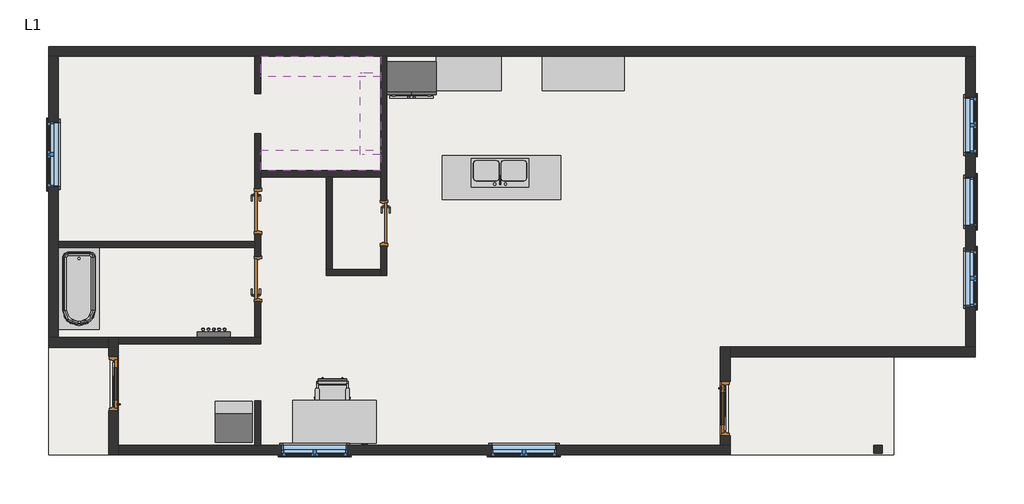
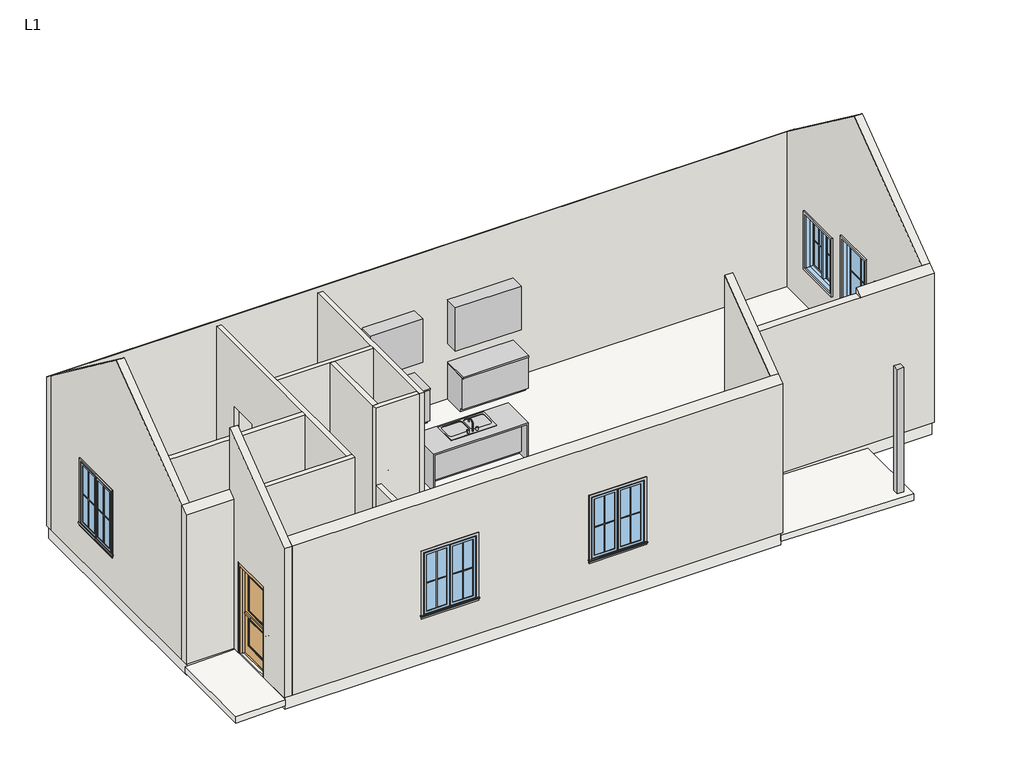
# One storey, incomplete: 28 proxies, 16 walls, 6 windows, 5 doors, 5 furniture elements, 3 slabs, 2 flow terminals, 1 column, 1 light fixture.
"""IFC4 building model written with IfcOpenShell, lengths in millimetres."""

from ifc_helpers import new_model, si_unit, frame, origin, origin_with_axes, place, context, project, spatial, polyline, outline, extrude, faceted_brep, transform, mapped, element, save
from components import proxy_7d457253, proxy_0c6ce0b5, muntin_pattern_2x2_muntin_pattern_2x2_88bf7f41, muntin_pattern_2x2_muntin_pattern_2x2_3dfd0a47, muntin_pattern_2x2_muntin_pattern_2x2_6dad3731, muntin_pattern_2x2_muntin_pattern_2x2_a30a3345, muntin_pattern_2x2_muntin_pattern_2x2_e2e8fc56, proxy_7f263747, trim_window_exterior_flat_with_sill_4930676f, trim_window_exterior_flat_with_sill_92b9b949, trim_window_exterior_flat_with_sill_0b42d71c, trim_window_interior_flat_picture_frame_dd064338, trim_window_interior_flat_picture_frame_3bb882cf, trim_window_interior_flat_picture_frame_20827519, proxy_5ec56aa7, door_071b1b46, door_1d3810e4, door_89b66799, flow_terminal_f86be223, tub_rectangular_3d_tub_rectangular_3d_49ae984a, furniture_ee69a057, furniture_a232d697, furniture_6f02d49c, chair_task_arms_chair_task_arms_fa5a08ef, furniture_072f6425, standard_89f9745c, window_5044d55b, window_87d44ff0, window_539d97a3

model = new_model("IFC4")

# Units and contexts
model_context = context("Model", 3, world=origin())
ifc_project = project(units=[si_unit("LENGTHUNIT", "METRE", prefix="MILLI")], contexts=[model_context])

# Site, building, storey
site = spatial("IfcSite", under=ifc_project)
building = spatial("IfcBuilding", under=site)
storey = spatial("IfcBuildingStorey", under=building, Name="L1", Elevation=0.0)

# Proxies
placement = place(None, origin())
proxy_shape = proxy_7d457253(model_context)
element("IfcBuildingElementProxy", 1, Name="Closet Shelf and Pole : 15\" Deep", ObjectType="Closet Shelf and Pole : 15\" Deep", at=placement, inside=storey, context=model_context, shape_type="MappedRepresentation", body=[
    mapped(proxy_shape, transform((-2923.8301933, 3639.126438, 0.0), x_axis=(1.0, 0.0, 0.0), y_axis=(0.0, 1.0, 0.0), z_axis=(0.0, 0.0, 1.0))),
])
element("IfcBuildingElementProxy", 2, Name="Closet Shelf and Pole : 15\" Deep", ObjectType="Closet Shelf and Pole : 15\" Deep", at=placement, inside=storey, context=model_context, shape_type="MappedRepresentation", body=[
    mapped(proxy_shape, transform((-688.6301933, 1505.526438, 0.0), x_axis=(-1.0, 0.0, 0.0), y_axis=(0.0, -1.0, 0.0), z_axis=(0.0, 0.0, 1.0))),
])
proxy_2_shape = proxy_0c6ce0b5(model_context)
element("IfcBuildingElementProxy", 3, Name="Closet Shelf and Pole : 15\" Deep", ObjectType="Closet Shelf and Pole : 15\" Deep", at=placement, inside=storey, context=model_context, shape_type="MappedRepresentation", body=[
    mapped(proxy_2_shape, transform((-688.6301933, 3334.326438, 0.0), x_axis=(0.0, -1.0, 0.0), y_axis=(1.0, 0.0, 0.0), z_axis=(0.0, 0.0, 1.0))),
])
muntin_pattern_2x2_muntin_pattern_2x2_shape = muntin_pattern_2x2_muntin_pattern_2x2_88bf7f41(model_context)
element("IfcBuildingElementProxy", 4, Name="Muntin Pattern_2x2 : Muntin Pattern_2x2", ObjectType="Muntin Pattern_2x2 : Muntin Pattern_2x2", at=placement, inside=storey, context=model_context, shape_type="MappedRepresentation", body=[
    mapped(muntin_pattern_2x2_muntin_pattern_2x2_shape, transform((10382.5948067, 2615.188938, 984.25), x_axis=(0.0, -1.0, 0.0), y_axis=(1.0, 0.0, 0.0), z_axis=(0.0, 0.0, 1.0))),
])
element("IfcBuildingElementProxy", 5, Name="Muntin Pattern_2x2 : Muntin Pattern_2x2", ObjectType="Muntin Pattern_2x2 : Muntin Pattern_2x2", at=placement, inside=storey, context=model_context, shape_type="MappedRepresentation", body=[
    mapped(muntin_pattern_2x2_muntin_pattern_2x2_shape, transform((10382.5948067, -242.311062, 984.25), x_axis=(0.0, -1.0, 0.0), y_axis=(1.0, 0.0, 0.0), z_axis=(0.0, 0.0, 1.0))),
])
muntin_pattern_2x2_muntin_pattern_2x2_2_shape = muntin_pattern_2x2_muntin_pattern_2x2_3dfd0a47(model_context)
element("IfcBuildingElementProxy", 6, Name="Muntin Pattern_2x2 : Muntin Pattern_2x2", ObjectType="Muntin Pattern_2x2 : Muntin Pattern_2x2", at=placement, inside=storey, context=model_context, shape_type="MappedRepresentation", body=[
    mapped(muntin_pattern_2x2_muntin_pattern_2x2_2_shape, transform((10382.5948067, 2097.663938, 984.25), x_axis=(0.0, 1.0, 0.0), y_axis=(-1.0, 0.0, 0.0), z_axis=(0.0, 0.0, 1.0))),
])
element("IfcBuildingElementProxy", 7, Name="Muntin Pattern_2x2 : Muntin Pattern_2x2", ObjectType="Muntin Pattern_2x2 : Muntin Pattern_2x2", at=placement, inside=storey, context=model_context, shape_type="MappedRepresentation", body=[
    mapped(muntin_pattern_2x2_muntin_pattern_2x2_2_shape, transform((10382.5948067, -759.836062, 984.25), x_axis=(0.0, 1.0, 0.0), y_axis=(-1.0, 0.0, 0.0), z_axis=(0.0, 0.0, 1.0))),
])
muntin_pattern_2x2_muntin_pattern_2x2_3_shape = muntin_pattern_2x2_muntin_pattern_2x2_6dad3731(model_context)
element("IfcBuildingElementProxy", 8, Name="Muntin Pattern_2x2 : Muntin Pattern_2x2", ObjectType="Muntin Pattern_2x2 : Muntin Pattern_2x2", at=placement, inside=storey, context=model_context, shape_type="MappedRepresentation", body=[
    mapped(muntin_pattern_2x2_muntin_pattern_2x2_3_shape, transform((-1617.3176933, -3787.198562, 984.25), x_axis=(-1.0, 0.0, 0.0), y_axis=(0.0, -1.0, 0.0), z_axis=(0.0, 0.0, 1.0))),
])
element("IfcBuildingElementProxy", 9, Name="Muntin Pattern_2x2 : Muntin Pattern_2x2", ObjectType="Muntin Pattern_2x2 : Muntin Pattern_2x2", at=placement, inside=storey, context=model_context, shape_type="MappedRepresentation", body=[
    mapped(muntin_pattern_2x2_muntin_pattern_2x2_3_shape, transform((2281.5823067, -3787.198562, 984.25), x_axis=(-1.0, 0.0, 0.0), y_axis=(0.0, -1.0, 0.0), z_axis=(0.0, 0.0, 1.0))),
])
element("IfcBuildingElementProxy", 10, Name="Muntin Pattern_2x2 : Muntin Pattern_2x2", ObjectType="Muntin Pattern_2x2 : Muntin Pattern_2x2", at=placement, inside=storey, context=model_context, shape_type="MappedRepresentation", body=[
    mapped(muntin_pattern_2x2_muntin_pattern_2x2_3_shape, transform((-6870.3551933, 1507.113938, 984.25), x_axis=(0.0, 1.0, 0.0), y_axis=(-1.0, 0.0, 0.0), z_axis=(0.0, 0.0, 1.0))),
])
muntin_pattern_2x2_muntin_pattern_2x2_4_shape = muntin_pattern_2x2_muntin_pattern_2x2_a30a3345(model_context)
element("IfcBuildingElementProxy", 11, Name="Muntin Pattern_2x2 : Muntin Pattern_2x2", ObjectType="Muntin Pattern_2x2 : Muntin Pattern_2x2", at=placement, inside=storey, context=model_context, shape_type="MappedRepresentation", body=[
    mapped(muntin_pattern_2x2_muntin_pattern_2x2_4_shape, transform((-2223.7426933, -3787.198562, 984.25), x_axis=(1.0, 0.0, 0.0), y_axis=(0.0, 1.0, 0.0), z_axis=(0.0, 0.0, 1.0))),
])
element("IfcBuildingElementProxy", 12, Name="Muntin Pattern_2x2 : Muntin Pattern_2x2", ObjectType="Muntin Pattern_2x2 : Muntin Pattern_2x2", at=placement, inside=storey, context=model_context, shape_type="MappedRepresentation", body=[
    mapped(muntin_pattern_2x2_muntin_pattern_2x2_4_shape, transform((1675.1573067, -3787.198562, 984.25), x_axis=(1.0, 0.0, 0.0), y_axis=(0.0, 1.0, 0.0), z_axis=(0.0, 0.0, 1.0))),
])
element("IfcBuildingElementProxy", 13, Name="Muntin Pattern_2x2 : Muntin Pattern_2x2", ObjectType="Muntin Pattern_2x2 : Muntin Pattern_2x2", at=placement, inside=storey, context=model_context, shape_type="MappedRepresentation", body=[
    mapped(muntin_pattern_2x2_muntin_pattern_2x2_4_shape, transform((-6870.3551933, 2113.538938, 984.25), x_axis=(0.0, -1.0, 0.0), y_axis=(1.0, 0.0, 0.0), z_axis=(0.0, 0.0, 1.0))),
])
muntin_pattern_2x2_muntin_pattern_2x2_5_shape = muntin_pattern_2x2_muntin_pattern_2x2_e2e8fc56(model_context)
element("IfcBuildingElementProxy", 14, Name="Muntin Pattern_2x2 : Muntin Pattern_2x2", ObjectType="Muntin Pattern_2x2 : Muntin Pattern_2x2", at=placement, inside=storey, context=model_context, shape_type="MappedRepresentation", body=[
    mapped(muntin_pattern_2x2_muntin_pattern_2x2_5_shape, transform((10382.5948067, 927.676438, 952.5), x_axis=(0.0, 1.0, 0.0), y_axis=(-1.0, 0.0, 0.0), z_axis=(0.0, 0.0, 1.0))),
])
proxy_3_shape = proxy_7f263747(model_context)
element("IfcBuildingElementProxy", 15, Name="Refrigerator-French_Door : 36\"", ObjectType="Refrigerator-French_Door : 36\"", at=placement, inside=storey, context=model_context, shape_type="MappedRepresentation", body=[
    mapped(proxy_3_shape, transform((-117.1301933, 3639.126438, 0.0), x_axis=(1.0, 0.0, 0.0), y_axis=(0.0, 1.0, 0.0), z_axis=(0.0, 0.0, 1.0))),
])
trim_window_exterior_flat_with_sill_shape = trim_window_exterior_flat_with_sill_4930676f(model_context)
element("IfcBuildingElementProxy", 16, Name="Trim-Window-Exterior-Flat : with Sill", ObjectType="Trim-Window-Exterior-Flat : with Sill", at=placement, inside=storey, context=model_context, shape_type="MappedRepresentation", body=[
    mapped(trim_window_exterior_flat_with_sill_shape, transform((10392.1198067, 2356.426438, 2260.6), x_axis=(0.0, 1.0, 0.0), y_axis=(0.0, 0.0, 1.0), z_axis=(1.0, 0.0, 0.0))),
])
element("IfcBuildingElementProxy", 17, Name="Trim-Window-Exterior-Flat : with Sill", ObjectType="Trim-Window-Exterior-Flat : with Sill", at=placement, inside=storey, context=model_context, shape_type="MappedRepresentation", body=[
    mapped(trim_window_exterior_flat_with_sill_shape, transform((10392.1198067, -501.073562, 2260.6), x_axis=(0.0, 1.0, 0.0), y_axis=(0.0, 0.0, 1.0), z_axis=(1.0, 0.0, 0.0))),
])
trim_window_exterior_flat_with_sill_2_shape = trim_window_exterior_flat_with_sill_92b9b949(model_context)
element("IfcBuildingElementProxy", 18, Name="Trim-Window-Exterior-Flat : with Sill", ObjectType="Trim-Window-Exterior-Flat : with Sill", at=placement, inside=storey, context=model_context, shape_type="MappedRepresentation", body=[
    mapped(trim_window_exterior_flat_with_sill_2_shape, transform((-1920.5301933, -3796.723562, 2438.4), x_axis=(1.0, 0.0, 0.0), y_axis=(0.0, 0.0, 1.0), z_axis=(0.0, -1.0, 0.0))),
])
element("IfcBuildingElementProxy", 19, Name="Trim-Window-Exterior-Flat : with Sill", ObjectType="Trim-Window-Exterior-Flat : with Sill", at=placement, inside=storey, context=model_context, shape_type="MappedRepresentation", body=[
    mapped(trim_window_exterior_flat_with_sill_2_shape, transform((1978.3698067, -3796.723562, 2438.4), x_axis=(1.0, 0.0, 0.0), y_axis=(0.0, 0.0, 1.0), z_axis=(0.0, -1.0, 0.0))),
])
element("IfcBuildingElementProxy", 20, Name="Trim-Window-Exterior-Flat : with Sill", ObjectType="Trim-Window-Exterior-Flat : with Sill", at=placement, inside=storey, context=model_context, shape_type="MappedRepresentation", body=[
    mapped(trim_window_exterior_flat_with_sill_2_shape, transform((-6879.8801933, 1810.326438, 2438.4), x_axis=(0.0, -1.0, 0.0), y_axis=(0.0, 0.0, 1.0), z_axis=(-1.0, 0.0, 0.0))),
])
trim_window_exterior_flat_with_sill_3_shape = trim_window_exterior_flat_with_sill_0b42d71c(model_context)
element("IfcBuildingElementProxy", 21, Name="Trim-Window-Exterior-Flat : with Sill", ObjectType="Trim-Window-Exterior-Flat : with Sill", at=placement, inside=storey, context=model_context, shape_type="MappedRepresentation", body=[
    mapped(trim_window_exterior_flat_with_sill_3_shape, transform((10392.1198067, 927.676438, 2565.4), x_axis=(0.0, 1.0, 0.0), y_axis=(0.0, 0.0, 1.0), z_axis=(1.0, 0.0, 0.0))),
])
trim_window_interior_flat_picture_frame_shape = trim_window_interior_flat_picture_frame_dd064338(model_context)
element("IfcBuildingElementProxy", 22, Name="Trim-Window-Interior-Flat : Picture Frame", ObjectType="Trim-Window-Interior-Flat : Picture Frame", at=placement, inside=storey, context=model_context, shape_type="MappedRepresentation", body=[
    mapped(trim_window_interior_flat_picture_frame_shape, transform((10207.9698067, 2356.426438, 2260.6), x_axis=(0.0, -1.0, 0.0), y_axis=(0.0, 0.0, 1.0), z_axis=(-1.0, 0.0, 0.0))),
])
element("IfcBuildingElementProxy", 23, Name="Trim-Window-Interior-Flat : Picture Frame", ObjectType="Trim-Window-Interior-Flat : Picture Frame", at=placement, inside=storey, context=model_context, shape_type="MappedRepresentation", body=[
    mapped(trim_window_interior_flat_picture_frame_shape, transform((10207.9698067, -501.073562, 2260.6), x_axis=(0.0, -1.0, 0.0), y_axis=(0.0, 0.0, 1.0), z_axis=(-1.0, 0.0, 0.0))),
])
trim_window_interior_flat_picture_frame_2_shape = trim_window_interior_flat_picture_frame_3bb882cf(model_context)
element("IfcBuildingElementProxy", 24, Name="Trim-Window-Interior-Flat : Picture Frame", ObjectType="Trim-Window-Interior-Flat : Picture Frame", at=placement, inside=storey, context=model_context, shape_type="MappedRepresentation", body=[
    mapped(trim_window_interior_flat_picture_frame_2_shape, transform((-1920.5301933, -3612.573562, 2438.4), x_axis=(-1.0, 0.0, 0.0), y_axis=(0.0, 0.0, 1.0), z_axis=(0.0, 1.0, 0.0))),
])
element("IfcBuildingElementProxy", 25, Name="Trim-Window-Interior-Flat : Picture Frame", ObjectType="Trim-Window-Interior-Flat : Picture Frame", at=placement, inside=storey, context=model_context, shape_type="MappedRepresentation", body=[
    mapped(trim_window_interior_flat_picture_frame_2_shape, transform((1978.3698067, -3612.573562, 2438.4), x_axis=(-1.0, 0.0, 0.0), y_axis=(0.0, 0.0, 1.0), z_axis=(0.0, 1.0, 0.0))),
])
element("IfcBuildingElementProxy", 26, Name="Trim-Window-Interior-Flat : Picture Frame", ObjectType="Trim-Window-Interior-Flat : Picture Frame", at=placement, inside=storey, context=model_context, shape_type="MappedRepresentation", body=[
    mapped(trim_window_interior_flat_picture_frame_2_shape, transform((-6695.7301933, 1810.326438, 2438.4), x_axis=(0.0, 1.0, 0.0), y_axis=(0.0, 0.0, 1.0), z_axis=(1.0, 0.0, 0.0))),
])
trim_window_interior_flat_picture_frame_3_shape = trim_window_interior_flat_picture_frame_20827519(model_context)
element("IfcBuildingElementProxy", 27, Name="Trim-Window-Interior-Flat : Picture Frame", ObjectType="Trim-Window-Interior-Flat : Picture Frame", at=placement, inside=storey, context=model_context, shape_type="MappedRepresentation", body=[
    mapped(trim_window_interior_flat_picture_frame_3_shape, transform((10207.9698067, 927.676438, 2565.4), x_axis=(0.0, -1.0, 0.0), y_axis=(0.0, 0.0, 1.0), z_axis=(-1.0, 0.0, 0.0))),
])
proxy_4_shape = proxy_5ec56aa7(model_context)
element("IfcBuildingElementProxy", 28, Name="Washer-Dryer-Stack : 27\" x 30\"", ObjectType="Washer-Dryer-Stack : 27\" x 30\"", at=placement, inside=storey, context=model_context, shape_type="MappedRepresentation", body=[
    mapped(proxy_4_shape, transform((-3431.8301933, -3180.773562, 0.0), x_axis=(-1.0, 0.0, 0.0), y_axis=(0.0, -1.0, 0.0), z_axis=(0.0, 0.0, 1.0))),
])

# Column
element("IfcColumn", 29, ObjectType="Rectangular Column : 6\" x 6\"", at=placement, inside=storey, context=model_context, shape_type="SweptSolid", body=[
    extrude(outline(polyline([(8652.2198067, -3612.573562), (8652.2198067, -3764.973562), (8499.8198067, -3764.973562), (8499.8198067, -3612.573562), (8652.2198067, -3612.573562)])), origin_with_axes(), (0.0, 0.0, 1.0), 3048.0),
])

# Doors
door_shape = door_071b1b46(model_context)
element("IfcDoor", 30, ObjectType="Door-Exterior-Single-Two_Lite : 36\" x 84\"", at=placement, inside=storey, context=model_context, shape_type="MappedRepresentation", body=[
    mapped(door_shape, transform((-5676.5551933, -2469.573562, 0.0), x_axis=(0.0, 1.0, 0.0), y_axis=(-1.0, 0.0, 0.0), z_axis=(0.0, 0.0, 1.0))),
])
element("IfcDoor", 31, ObjectType="Door-Exterior-Single-Two_Lite : 36\" x 84\"", at=placement, inside=storey, context=model_context, shape_type="MappedRepresentation", body=[
    mapped(door_shape, transform((5734.3948067, -2933.123562, 0.0), x_axis=(0.0, -1.0, 0.0), y_axis=(1.0, 0.0, 0.0), z_axis=(0.0, 0.0, 1.0))),
])
door_2_shape = door_1d3810e4(model_context)
element("IfcDoor", 32, ObjectType="Door-Passage-Single-Flush : 30\" x 84\"", at=placement, inside=storey, context=model_context, shape_type="MappedRepresentation", body=[
    mapped(door_2_shape, transform((-2974.6301933, -513.773562, 0.0), x_axis=(0.0, 1.0, 0.0), y_axis=(-1.0, 0.0, 0.0), z_axis=(0.0, 0.0, 1.0))),
])
element("IfcDoor", 33, ObjectType="Door-Passage-Single-Flush : 30\" x 84\"", at=placement, inside=storey, context=model_context, shape_type="MappedRepresentation", body=[
    mapped(door_2_shape, transform((-637.8301933, 527.626438, 0.0), x_axis=(0.0, -1.0, 0.0), y_axis=(1.0, 0.0, 0.0), z_axis=(0.0, 0.0, 1.0))),
])
door_3_shape = door_89b66799(model_context)
element("IfcDoor", 34, ObjectType="Door-Passage-Single-Flush : 30\" x 84\"", at=placement, inside=storey, context=model_context, shape_type="MappedRepresentation", body=[
    mapped(door_3_shape, transform((-2974.6301933, 749.876438, 0.0), x_axis=(0.0, -1.0, 0.0), y_axis=(1.0, 0.0, 0.0), z_axis=(0.0, 0.0, 1.0))),
])

# Flow terminals
flow_terminal_shape = flow_terminal_f86be223(model_context)
element("IfcFlowTerminal", 35, ObjectType="Sink - Kitchen - Double : 42\"x21\" - Private", at=placement, inside=storey, context=model_context, shape_type="MappedRepresentation", body=[
    mapped(flow_terminal_shape, transform((1533.8698067, 1200.726438, 914.4), x_axis=(-1.0, 0.0, 0.0), y_axis=(0.0, -1.0, 0.0), z_axis=(0.0, 0.0, 1.0))),
])
tub_rectangular_3d_tub_rectangular_3d_shape = tub_rectangular_3d_tub_rectangular_3d_49ae984a(model_context)
element("IfcFlowTerminal", 36, ObjectType="Tub-Rectangular-3D : Tub-Rectangular-3D", at=placement, inside=storey, context=model_context, shape_type="MappedRepresentation", body=[
    mapped(tub_rectangular_3d_tub_rectangular_3d_shape, transform((-6787.8051933, -1040.1765307, 0.0), x_axis=(0.0, -1.0, 0.0), y_axis=(1.0, 0.0, 0.0), z_axis=(0.0, 0.0, 1.0))),
])

# Furniture
furniture_shape = furniture_ee69a057(model_context)
element("IfcFurniture", 37, ObjectType="Casework Schematic - Base and Upper : Casework Schematic", at=placement, inside=storey, context=model_context, shape_type="MappedRepresentation", body=[
    mapped(furniture_shape, transform((340.0698067, 3639.126438, 0.0), x_axis=(1.0, 0.0, 0.0), y_axis=(0.0, 1.0, 0.0), z_axis=(0.0, 0.0, 1.0))),
])
furniture_2_shape = furniture_a232d697(model_context)
element("IfcFurniture", 38, ObjectType="Casework Schematic - Base and Upper : Casework Schematic", at=placement, inside=storey, context=model_context, shape_type="MappedRepresentation", body=[
    mapped(furniture_2_shape, transform((2321.2698067, 3639.126438, 0.0), x_axis=(1.0, 0.0, 0.0), y_axis=(0.0, 1.0, 0.0), z_axis=(0.0, 0.0, 1.0))),
])
furniture_3_shape = furniture_6f02d49c(model_context)
element("IfcFurniture", 39, ObjectType="Casework Schematic - Base and Upper : Casework Schematic", at=placement, inside=storey, context=model_context, shape_type="MappedRepresentation", body=[
    mapped(furniture_3_shape, transform((492.4698067, 1784.926438, 0.0), x_axis=(1.0, 0.0, 0.0), y_axis=(0.0, 1.0, 0.0), z_axis=(0.0, 0.0, 1.0))),
])
chair_task_arms_chair_task_arms_shape = chair_task_arms_chair_task_arms_fa5a08ef(model_context)
element("IfcFurniture", 40, ObjectType="Chair-Task Arms : Chair-Task Arms", at=placement, inside=storey, context=model_context, shape_type="MappedRepresentation", body=[
    mapped(chair_task_arms_chair_task_arms_shape, transform((-1449.3393736, -2623.5208346, 0.0), x_axis=(-1.0, 0.0, 0.0), y_axis=(0.0, -1.0, 0.0), z_axis=(0.0, 0.0, 1.0))),
])
furniture_4_shape = furniture_072f6425(model_context)
element("IfcFurniture", 41, ObjectType="Desk : 60\" x 30\"", at=placement, inside=storey, context=model_context, shape_type="MappedRepresentation", body=[
    mapped(furniture_4_shape, transform((-790.2301933, -2799.773562, 0.0), x_axis=(-1.0, 0.0, 0.0), y_axis=(0.0, -1.0, 0.0), z_axis=(0.0, 0.0, 1.0))),
])

# Light fixture
standard_shape = standard_89f9745c(model_context)
element("IfcLightFixture", 42, ObjectType="Sconce Lamp - Cosmetic - LED : Standard", at=placement, inside=storey, context=model_context, shape_type="MappedRepresentation", body=[
    mapped(standard_shape, transform((-3800.1301933, -1605.973562, 1219.2), x_axis=(-1.0, 0.0, 0.0), y_axis=(0.0, 0.0, 1.0), z_axis=(0.0, 1.0, 0.0))),
])

# Slabs
element("IfcSlab", 43, ObjectType="Concrete 6\"", at=placement, inside=storey, context=model_context, shape_type="SweptSolid", body=[
    extrude(outline(polyline([(-203.2330693, 5788.3698067), (-267.3945277, 8868.1198067), (-114.9614583, 8868.1198067), (-50.8, 5788.3698067), (-203.2330693, 5788.3698067)])), frame((0.0, -3796.723562, 0.0), z_axis=(0.0, 1.0, 0.0), x_axis=(0.0, 0.0, 1.0)), (0.0, 0.0, 1.0), 1860.55),
])
element("IfcSlab", 44, ObjectType="Concrete 6\"", at=placement, inside=storey, context=model_context, shape_type="SweptSolid", body=[
    extrude(outline(polyline([(-227.177861, -6879.8801933), (-203.2330693, -5730.5301933), (-50.8, -5730.5301933), (-74.7447917, -6879.8801933), (-227.177861, -6879.8801933)])), frame((0.0, -3796.723562, 0.0), z_axis=(0.0, 1.0, 0.0), x_axis=(0.0, 0.0, 1.0)), (0.0, 0.0, 1.0), 2038.35),
])
element("IfcSlab", 45, ObjectType="Generic - 12\"", at=placement, inside=storey, context=model_context, shape_type="SweptSolid", body=[
    extrude(outline(polyline([(10360.3698067, 3791.526438), (10360.3698067, -1936.173562), (5788.3698067, -1936.173562), (5788.3698067, -3764.973562), (-5730.5301933, -3764.973562), (-5730.5301933, -1758.373562), (-6848.1301933, -1758.373562), (-6848.1301933, 3791.526438), (10360.3698067, 3791.526438)])), frame((0.0, 0.0, -304.8), z_axis=(0.0, 0.0, 1.0), x_axis=(1.0, 0.0, 0.0)), (0.0, 0.0, 1.0), 304.8),
])

# Walls
element("IfcWall", 46, ObjectType="Exterior - Wood Siding on Wood Stud", at=placement, inside=storey, context=model_context, shape_type="Brep", body=[
    faceted_brep([(-6879.8801933, 3639.126438, 0.0), (-6695.7301933, 3639.126438, 0.0), (-3038.1301933, 3639.126438, 0.0), (-2923.8301933, 3639.126438, 0.0), (-688.6301933, 3639.126438, 0.0), (-574.3301933, 3639.126438, 0.0), (10207.9698067, 3639.126438, 0.0), (10392.1198067, 3639.126438, 0.0), (10392.1198067, 3639.126438, 3795.7125), (10207.9698067, 3639.126438, 3795.7125), (8683.9698067, 3639.126438, 3795.7125), (8499.8198067, 3639.126438, 3795.7125), (-5578.1301933, 3639.126438, 3795.7125), (-5762.2801933, 3639.126438, 3795.7125), (-6695.7301933, 3639.126438, 3795.7125), (-6879.8801933, 3639.126438, 3795.7125), (-6879.8801933, 3823.276438, 0.0), (-6879.8801933, 3823.276438, 3657.6), (-5762.2801933, 3823.276438, 3657.6), (8683.9698067, 3823.276438, 3657.6), (10392.1198067, 3823.276438, 3657.6), (10392.1198067, 3823.276438, 0.0)], [[[0, 1, 2, 3, 4, 5, 6, 7, 8, 9, 10, 11, 12, 13, 14, 15]], [[16, 17, 18, 19, 20, 21]], [[7, 6, 5, 4, 3, 2, 1, 0, 16, 21]], [[0, 15, 17, 16]], [[8, 7, 21, 20]], [[8, 20, 19, 10, 9]], [[13, 12, 11, 10, 19, 18]], [[13, 18, 17, 15, 14]]]),
])
element("IfcWall", 47, ObjectType="Exterior - Wood Siding on Wood Stud", at=placement, inside=storey, context=model_context, shape_type="Brep", body=[
    faceted_brep([(-5578.1301933, -3796.723562, 3657.6), (-5578.1301933, -3796.723562, 0.0), (-5578.1301933, -3612.573562, 0.0), (-5578.1301933, -2977.573562, 0.0), (-5578.1301933, -2977.573562, 2235.2), (-5578.1301933, -1961.573562, 2235.2), (-5578.1301933, -1961.573562, 0.0), (-5578.1301933, -1720.273562, 0.0), (-5578.1301933, -1605.973562, 0.0), (-5578.1301933, -1605.973562, 3657.6), (-5578.1301933, -1605.973562, 5300.6625), (-5578.1301933, -3612.573562, 3795.7125), (-5762.2801933, -3796.723562, 0.0), (-5762.2801933, -3796.723562, 3657.6), (-5762.2801933, -1605.973562, 5300.6625), (-5762.2801933, -1605.973562, 3795.7125), (-5762.2801933, -1605.973562, 3657.6), (-5762.2801933, -1605.973562, 0.0), (-5762.2801933, -1790.123562, 0.0), (-5762.2801933, -1961.573562, 0.0), (-5762.2801933, -1961.573562, 2235.2), (-5762.2801933, -2977.573562, 2235.2), (-5762.2801933, -2977.573562, 0.0)], [[[0, 1, 2, 3, 4, 5, 6, 7, 8, 9, 10, 11]], [[12, 13, 14, 15, 16, 17, 18, 19, 20, 21, 22]], [[1, 12, 22, 3, 2]], [[17, 8, 7, 6, 19, 18]], [[1, 0, 13, 12]], [[5, 20, 19, 6]], [[20, 5, 4, 21]], [[21, 4, 3, 22]], [[0, 11, 10, 14, 13]], [[8, 17, 16, 15, 14, 10, 9]]]),
])
element("IfcWall", 48, ObjectType="Exterior - Wood Siding on Wood Stud", at=placement, inside=storey, context=model_context, shape_type="Brep", body=[
    faceted_brep([(5820.1198067, -3612.573562, 3795.7125), (5820.1198067, -3612.573562, 3048.0), (5820.1198067, -3612.573562, 0.0), (5635.9698067, -3612.573562, 0.0), (-2923.8301933, -3612.573562, 0.0), (-3038.1301933, -3612.573562, 0.0), (-5578.1301933, -3612.573562, 0.0), (-5578.1301933, -3612.573562, 3795.7125), (5635.9698067, -3612.573562, 3795.7125), (-2530.1301933, -3612.573562, 2438.4), (-2530.1301933, -3612.573562, 914.4), (-1310.9301933, -3612.573562, 914.4), (-1310.9301933, -3612.573562, 2438.4), (1368.7698067, -3612.573562, 2438.4), (1368.7698067, -3612.573562, 914.4), (2587.9698067, -3612.573562, 914.4), (2587.9698067, -3612.573562, 2438.4), (5820.1198067, -3796.723562, 0.0), (5820.1198067, -3796.723562, 3048.0), (5820.1198067, -3796.723562, 3657.6), (-5578.1301933, -3796.723562, 3657.6), (-5578.1301933, -3796.723562, 0.0), (-2530.1301933, -3796.723562, 2438.4), (-1310.9301933, -3796.723562, 2438.4), (-1310.9301933, -3796.723562, 914.4), (-2530.1301933, -3796.723562, 914.4), (1368.7698067, -3796.723562, 2438.4), (2587.9698067, -3796.723562, 2438.4), (2587.9698067, -3796.723562, 914.4), (1368.7698067, -3796.723562, 914.4)], [[[0, 1, 2, 3, 4, 5, 6, 7, 8], [9, 10, 11, 12], [13, 14, 15, 16]], [[17, 18, 19, 20, 21], [22, 23, 24, 25], [26, 27, 28, 29]], [[6, 5, 4, 3, 2, 17, 21]], [[7, 6, 21, 20]], [[10, 9, 22, 25]], [[11, 10, 25, 24]], [[12, 11, 24, 23]], [[9, 12, 23, 22]], [[14, 13, 26, 29]], [[15, 14, 29, 28]], [[16, 15, 28, 27]], [[13, 16, 27, 26]], [[0, 8, 7, 20, 19]], [[0, 19, 18, 17, 2, 1]]]),
])
element("IfcWall", 49, ObjectType="Exterior - Wood Siding on Wood Stud", at=placement, inside=storey, context=model_context, shape_type="Brep", body=[
    faceted_brep([(5635.9698067, -1783.773562, 5167.3125), (5635.9698067, -1783.773562, 0.0), (5635.9698067, -2425.123562, 0.0), (5635.9698067, -2425.123562, 2235.2), (5635.9698067, -3441.123562, 2235.2), (5635.9698067, -3441.123562, 0.0), (5635.9698067, -3612.573562, 0.0), (5635.9698067, -3612.573562, 3795.7125), (5820.1198067, -1783.773562, 0.0), (5820.1198067, -1783.773562, 3657.6), (5820.1198067, -1783.773562, 5167.3125), (5820.1198067, -3612.573562, 3795.7125), (5820.1198067, -3612.573562, 0.0), (5820.1198067, -3441.123562, 0.0), (5820.1198067, -3441.123562, 2235.2), (5820.1198067, -2425.123562, 2235.2), (5820.1198067, -2425.123562, 0.0), (5820.1198067, -1967.923562, 0.0)], [[[0, 1, 2, 3, 4, 5, 6, 7]], [[8, 9, 10, 11, 12, 13, 14, 15, 16, 17]], [[12, 6, 5, 13]], [[1, 8, 17, 16, 2]], [[1, 0, 10, 9, 8]], [[4, 14, 13, 5]], [[14, 4, 3, 15]], [[15, 3, 2, 16]], [[0, 7, 11, 10]], [[6, 12, 11, 7]]]),
])
element("IfcWall", 50, ObjectType="Exterior - Wood Siding on Wood Stud", at=placement, inside=storey, context=model_context, shape_type="Brep", body=[
    faceted_brep([(-5762.2801933, -1605.973562, 3795.7125), (-5762.2801933, -1605.973562, 0.0), (-6695.7301933, -1605.973562, 0.0), (-6879.8801933, -1605.973562, 0.0), (-6879.8801933, -1605.973562, 3795.7125), (-6695.7301933, -1605.973562, 3795.7125), (-5762.2801933, -1790.123562, 0.0), (-5762.2801933, -1790.123562, 3657.6), (-6879.8801933, -1790.123562, 3657.6), (-6879.8801933, -1790.123562, 0.0)], [[[0, 1, 2, 3, 4, 5]], [[6, 7, 8, 9]], [[3, 2, 1, 6, 9]], [[4, 3, 9, 8]], [[0, 7, 6, 1]], [[0, 5, 4, 8, 7]]]),
])
element("IfcWall", 51, ObjectType="Exterior - Wood Siding on Wood Stud", at=placement, inside=storey, context=model_context, shape_type="Brep", body=[
    faceted_brep([(-6695.7301933, -1605.973562, 0.0), (-6695.7301933, 70.426438, 0.0), (-6695.7301933, 184.726438, 0.0), (-6695.7301933, 3639.126438, 0.0), (-6695.7301933, 3639.126438, 3795.7125), (-6695.7301933, 1016.576438, 5762.625), (-6695.7301933, -1605.973562, 3795.7125), (-6695.7301933, 2419.926438, 2438.4), (-6695.7301933, 2419.926438, 914.4), (-6695.7301933, 1200.726438, 914.4), (-6695.7301933, 1200.726438, 2438.4), (-6879.8801933, -1605.973562, 0.0), (-6879.8801933, -1605.973562, 3795.7125), (-6879.8801933, 1016.576438, 5762.625), (-6879.8801933, 3639.126438, 3795.7125), (-6879.8801933, 3639.126438, 0.0), (-6879.8801933, 2419.926438, 2438.4), (-6879.8801933, 1200.726438, 2438.4), (-6879.8801933, 1200.726438, 914.4), (-6879.8801933, 2419.926438, 914.4)], [[[0, 1, 2, 3, 4, 5, 6], [7, 8, 9, 10]], [[11, 12, 13, 14, 15], [16, 17, 18, 19]], [[3, 2, 1, 0, 11, 15]], [[0, 6, 12, 11]], [[4, 3, 15, 14]], [[8, 7, 16, 19]], [[9, 8, 19, 18]], [[10, 9, 18, 17]], [[7, 10, 17, 16]], [[6, 5, 13, 12]], [[5, 4, 14, 13]]]),
])
element("IfcWall", 52, ObjectType="Exterior - Wood Siding on Wood Stud", at=placement, inside=storey, context=model_context, shape_type="Brep", body=[
    faceted_brep([(5820.1198067, -1967.923562, 0.0), (10392.1198067, -1967.923562, 0.0), (10392.1198067, -1967.923562, 3657.6), (8683.9698067, -1967.923562, 3657.6), (8499.8198067, -1967.923562, 3657.6), (5820.1198067, -1967.923562, 3657.6), (5820.1198067, -1783.773562, 0.0), (5820.1198067, -1783.773562, 3657.6), (8499.8198067, -1783.773562, 3657.6), (8683.9698067, -1783.773562, 3657.6), (8683.9698067, -1783.773562, 3795.7125), (10207.9698067, -1783.773562, 3795.7125), (10392.1198067, -1783.773562, 3795.7125), (10392.1198067, -1783.773562, 0.0), (10207.9698067, -1783.773562, 0.0)], [[[0, 1, 2, 3, 4, 5]], [[6, 7, 8, 9, 10, 11, 12, 13, 14]], [[1, 0, 6, 14, 13]], [[2, 1, 13, 12]], [[0, 5, 7, 6]], [[5, 4, 3, 9, 8, 7]], [[9, 3, 10]], [[3, 2, 12, 11, 10]]]),
])
element("IfcWall", 53, ObjectType="Exterior - Wood Siding on Wood Stud", at=placement, inside=storey, context=model_context, shape_type="SweptSolid", body=[
    extrude(outline(polyline([(-1783.773562, 0.0), (-1783.773562, 3795.7125), (927.676438, 5829.3), (3639.126438, 3795.7125), (3639.126438, 0.0), (-1783.773562, 0.0)]), holes=[polyline([(1835.726438, 2260.6), (1835.726438, 914.4), (2877.126438, 914.4), (2877.126438, 2260.6), (1835.726438, 2260.6)]), polyline([(-1021.773562, 2260.6), (-1021.773562, 914.4), (19.626438, 914.4), (19.626438, 2260.6), (-1021.773562, 2260.6)]), polyline([(470.476438, 2565.4), (470.476438, 914.4), (1384.876438, 914.4), (1384.876438, 2565.4), (470.476438, 2565.4)])]), frame((10207.9698067, 0.0, 0.0), z_axis=(1.0, 0.0, 0.0), x_axis=(0.0, 1.0, 0.0)), (0.0, 0.0, 1.0), 184.15),
])
element("IfcWall", 54, ObjectType="Interior - 4 1/2\" Partition", at=placement, inside=storey, context=model_context, shape_type="Brep", body=[
    faceted_brep([(-5578.1301933, -1720.273562, 0.0), (-2923.8301933, -1720.273562, 0.0), (-2923.8301933, -1720.273562, 3657.6), (-5578.1301933, -1720.273562, 3657.6), (-5578.1301933, -1605.973562, 0.0), (-5578.1301933, -1605.973562, 3657.6), (-3038.1301933, -1605.973562, 3657.6), (-2923.8301933, -1605.973562, 3657.6), (-2923.8301933, -1605.973562, 0.0), (-3038.1301933, -1605.973562, 0.0)], [[[0, 1, 2, 3]], [[4, 5, 6, 7, 8, 9]], [[1, 0, 4, 9, 8]], [[3, 2, 7, 6, 5]], [[0, 3, 5, 4]], [[2, 1, 8, 7]]]),
])
element("IfcWall", 55, ObjectType="Interior - 4 1/2\" Partition", at=placement, inside=storey, context=model_context, shape_type="Brep", body=[
    faceted_brep([(-2923.8301933, 3639.126438, 3657.6), (-2923.8301933, 1505.526438, 3657.6), (-2923.8301933, 1391.226438, 3657.6), (-2923.8301933, -1605.973562, 3657.6), (-2923.8301933, -1605.973562, 0.0), (-2923.8301933, -926.523562, 0.0), (-2923.8301933, -926.523562, 2165.35), (-2923.8301933, -101.023562, 2165.35), (-2923.8301933, -101.023562, 0.0), (-2923.8301933, 337.126438, 0.0), (-2923.8301933, 337.126438, 2165.35), (-2923.8301933, 1162.626438, 2165.35), (-2923.8301933, 1162.626438, 0.0), (-2923.8301933, 1391.226438, 0.0), (-2923.8301933, 1505.526438, 0.0), (-2923.8301933, 2197.676438, 0.0), (-2923.8301933, 2197.676438, 2127.25), (-2923.8301933, 2946.976438, 2127.25), (-2923.8301933, 2946.976438, 0.0), (-2923.8301933, 3639.126438, 0.0), (-3038.1301933, -1605.973562, 3657.6), (-3038.1301933, 70.426438, 3657.6), (-3038.1301933, 184.726438, 3657.6), (-3038.1301933, 3639.126438, 3657.6), (-3038.1301933, 3639.126438, 0.0), (-3038.1301933, 2946.976438, 0.0), (-3038.1301933, 2946.976438, 2127.25), (-3038.1301933, 2197.676438, 2127.25), (-3038.1301933, 2197.676438, 0.0), (-3038.1301933, 1162.626438, 0.0), (-3038.1301933, 1162.626438, 2165.35), (-3038.1301933, 337.126438, 2165.35), (-3038.1301933, 337.126438, 0.0), (-3038.1301933, 184.726438, 0.0), (-3038.1301933, 70.426438, 0.0), (-3038.1301933, -101.023562, 0.0), (-3038.1301933, -101.023562, 2165.35), (-3038.1301933, -926.523562, 2165.35), (-3038.1301933, -926.523562, 0.0), (-3038.1301933, -1605.973562, 0.0)], [[[0, 1, 2, 3, 4, 5, 6, 7, 8, 9, 10, 11, 12, 13, 14, 15, 16, 17, 18, 19]], [[20, 21, 22, 23, 24, 25, 26, 27, 28, 29, 30, 31, 32, 33, 34, 35, 36, 37, 38, 39]], [[4, 39, 38, 5]], [[24, 19, 18, 25]], [[8, 35, 34, 33, 32, 9]], [[12, 29, 28, 15, 14, 13]], [[3, 2, 1, 0, 23, 22, 21, 20]], [[4, 3, 20, 39]], [[0, 19, 24, 23]], [[7, 36, 35, 8]], [[36, 7, 6, 37]], [[37, 6, 5, 38]], [[31, 10, 9, 32]], [[10, 31, 30, 11]], [[11, 30, 29, 12]], [[27, 16, 15, 28]], [[16, 27, 26, 17]], [[17, 26, 25, 18]]]),
])
element("IfcWall", 56, ObjectType="Interior - 4 1/2\" Partition", at=placement, inside=storey, context=model_context, shape_type="SweptSolid", body=[
    extrude(outline(polyline([(-3038.1301933, 70.426438), (-6695.7301933, 70.426438), (-6695.7301933, 184.726438), (-3038.1301933, 184.726438), (-3038.1301933, 70.426438)])), origin_with_axes(), (0.0, 0.0, 1.0), 3657.6),
])
element("IfcWall", 57, ObjectType="Interior - 4 1/2\" Partition", at=placement, inside=storey, context=model_context, shape_type="Brep", body=[
    faceted_brep([(-2923.8301933, 1391.226438, 0.0), (-1704.6301933, 1391.226438, 0.0), (-1590.3301933, 1391.226438, 0.0), (-688.6301933, 1391.226438, 0.0), (-688.6301933, 1391.226438, 3657.6), (-1590.3301933, 1391.226438, 3657.6), (-1704.6301933, 1391.226438, 3657.6), (-2923.8301933, 1391.226438, 3657.6), (-2923.8301933, 1505.526438, 0.0), (-2923.8301933, 1505.526438, 3657.6), (-688.6301933, 1505.526438, 3657.6), (-688.6301933, 1505.526438, 0.0)], [[[0, 1, 2, 3, 4, 5, 6, 7]], [[8, 9, 10, 11]], [[3, 2, 1, 0, 8, 11]], [[7, 6, 5, 4, 10, 9]], [[0, 7, 9, 8]], [[4, 3, 11, 10]]]),
])
element("IfcWall", 58, ObjectType="Interior - 4 1/2\" Partition", at=placement, inside=storey, context=model_context, shape_type="Brep", body=[
    faceted_brep([(-688.6301933, -450.273562, 3657.6), (-688.6301933, -335.973562, 3657.6), (-688.6301933, 1391.226438, 3657.6), (-688.6301933, 1505.526438, 3657.6), (-688.6301933, 3639.126438, 3657.6), (-688.6301933, 3639.126438, 0.0), (-688.6301933, 1505.526438, 0.0), (-688.6301933, 1391.226438, 0.0), (-688.6301933, 940.376438, 0.0), (-688.6301933, 940.376438, 2165.35), (-688.6301933, 114.876438, 2165.35), (-688.6301933, 114.876438, 0.0), (-688.6301933, -335.973562, 0.0), (-688.6301933, -450.273562, 0.0), (-574.3301933, 3639.126438, 3657.6), (-574.3301933, -450.273562, 3657.6), (-574.3301933, -450.273562, 0.0), (-574.3301933, 114.876438, 0.0), (-574.3301933, 114.876438, 2165.35), (-574.3301933, 940.376438, 2165.35), (-574.3301933, 940.376438, 0.0), (-574.3301933, 3639.126438, 0.0)], [[[0, 1, 2, 3, 4, 5, 6, 7, 8, 9, 10, 11, 12, 13]], [[14, 15, 16, 17, 18, 19, 20, 21]], [[5, 21, 20, 8, 7, 6]], [[16, 13, 12, 11, 17]], [[4, 3, 2, 1, 0, 15, 14]], [[5, 4, 14, 21]], [[0, 13, 16, 15]], [[10, 18, 17, 11]], [[18, 10, 9, 19]], [[19, 9, 8, 20]]]),
])
element("IfcWall", 59, ObjectType="Interior - 4 1/2\" Partition", at=placement, inside=storey, context=model_context, shape_type="Brep", body=[
    faceted_brep([(-688.6301933, -335.973562, 0.0), (-1590.3301933, -335.973562, 0.0), (-1704.6301933, -335.973562, 0.0), (-1704.6301933, -335.973562, 3657.6), (-1590.3301933, -335.973562, 3657.6), (-688.6301933, -335.973562, 3657.6), (-688.6301933, -450.273562, 0.0), (-688.6301933, -450.273562, 3657.6), (-1704.6301933, -450.273562, 3657.6), (-1704.6301933, -450.273562, 0.0)], [[[0, 1, 2, 3, 4, 5]], [[6, 7, 8, 9]], [[2, 1, 0, 6, 9]], [[5, 4, 3, 8, 7]], [[0, 5, 7, 6]], [[3, 2, 9, 8]]]),
])
element("IfcWall", 60, ObjectType="Interior - 4 1/2\" Partition", at=placement, inside=storey, context=model_context, shape_type="SweptSolid", body=[
    extrude(outline(polyline([(-1590.3301933, 1391.226438), (-1590.3301933, -335.973562), (-1704.6301933, -335.973562), (-1704.6301933, 1391.226438), (-1590.3301933, 1391.226438)])), origin_with_axes(), (0.0, 0.0, 1.0), 3657.6),
])
element("IfcWall", 61, ObjectType="Interior - 4 1/2\" Partition", at=placement, inside=storey, context=model_context, shape_type="SweptSolid", body=[
    extrude(outline(polyline([(-2923.8301933, -2790.248562), (-2923.8301933, -3612.573562), (-3038.1301933, -3612.573562), (-3038.1301933, -2790.248562), (-2923.8301933, -2790.248562)])), origin_with_axes(), (0.0, 0.0, 1.0), 3657.6),
])

# Windows
window_shape = window_5044d55b(model_context)
element("IfcWindow", 62, ObjectType="Window-Casement-Double : 41\" x 53\"", at=placement, inside=storey, context=model_context, shape_type="MappedRepresentation", body=[
    mapped(window_shape, transform((10300.0448067, 2356.426438, 0.0), x_axis=(0.0, -1.0, 0.0), y_axis=(1.0, 0.0, 0.0), z_axis=(0.0, 0.0, 1.0))),
])
element("IfcWindow", 63, ObjectType="Window-Casement-Double : 41\" x 53\"", at=placement, inside=storey, context=model_context, shape_type="MappedRepresentation", body=[
    mapped(window_shape, transform((10300.0448067, -501.073562, 0.0), x_axis=(0.0, -1.0, 0.0), y_axis=(1.0, 0.0, 0.0), z_axis=(0.0, 0.0, 1.0))),
])
window_2_shape = window_87d44ff0(model_context)
element("IfcWindow", 64, ObjectType="Window-Casement-Double : 48\" x 60\"", at=placement, inside=storey, context=model_context, shape_type="MappedRepresentation", body=[
    mapped(window_2_shape, transform((-1920.5301933, -3704.648562, 0.0), x_axis=(-1.0, 0.0, 0.0), y_axis=(0.0, -1.0, 0.0), z_axis=(0.0, 0.0, 1.0))),
])
element("IfcWindow", 65, ObjectType="Window-Casement-Double : 48\" x 60\"", at=placement, inside=storey, context=model_context, shape_type="MappedRepresentation", body=[
    mapped(window_2_shape, transform((1978.3698067, -3704.648562, 0.0), x_axis=(-1.0, 0.0, 0.0), y_axis=(0.0, -1.0, 0.0), z_axis=(0.0, 0.0, 1.0))),
])
element("IfcWindow", 66, ObjectType="Window-Casement-Double : 48\" x 60\"", at=placement, inside=storey, context=model_context, shape_type="MappedRepresentation", body=[
    mapped(window_2_shape, transform((-6787.8051933, 1810.326438, 0.0), x_axis=(0.0, 1.0, 0.0), y_axis=(-1.0, 0.0, 0.0), z_axis=(0.0, 0.0, 1.0))),
])
window_3_shape = window_539d97a3(model_context)
element("IfcWindow", 67, ObjectType="Window-Fixed : 36\" x 65\"", at=placement, inside=storey, context=model_context, shape_type="MappedRepresentation", body=[
    mapped(window_3_shape, transform((10300.0448067, 927.676438, 0.0), x_axis=(0.0, -1.0, 0.0), y_axis=(1.0, 0.0, 0.0), z_axis=(0.0, 0.0, 1.0))),
])

save(model, "model.ifc")
